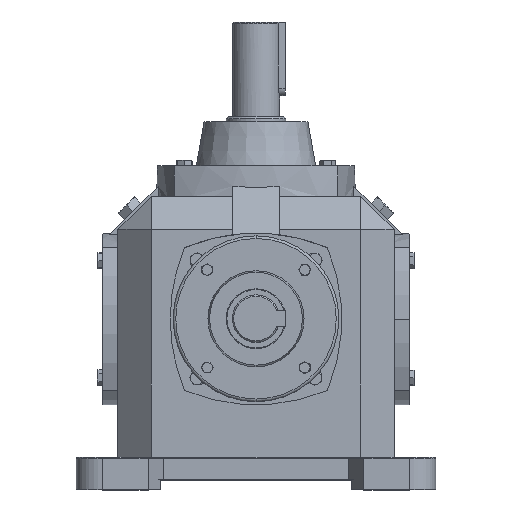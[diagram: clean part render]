
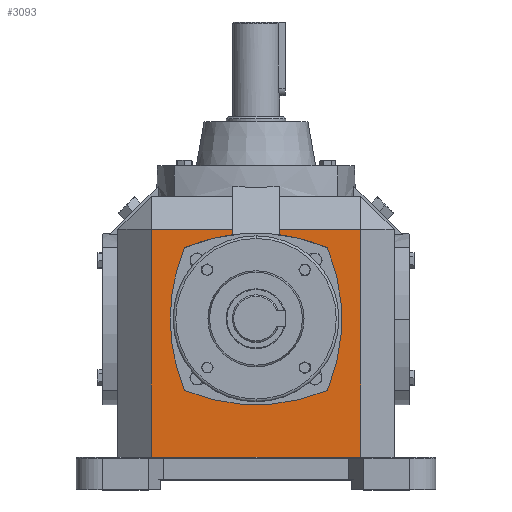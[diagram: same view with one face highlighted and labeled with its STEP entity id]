
A CAD part, top view. The second image highlights one B-rep face of the part: STEP entity #3093.
In plain terms, the highlighted planar face has unit normal (0, 0, 1).
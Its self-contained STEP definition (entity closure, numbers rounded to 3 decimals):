
#160 = AXIS2_PLACEMENT_3D ( 'NONE', #11302, #3667, #14354 ) ;
#373 = CARTESIAN_POINT ( 'NONE',  ( 37.663, -37.663, 72.9 ) ) ;
#483 = DIRECTION ( 'NONE',  ( 0., 0., 1. ) ) ;
#549 = CIRCLE ( 'NONE', #160, 96.398 ) ;
#611 = EDGE_CURVE ( 'NONE', #10576, #1269, #3101, .T. ) ;
#630 = EDGE_CURVE ( 'NONE', #1242, #10701, #14581, .T. ) ;
#919 = VERTEX_POINT ( 'NONE', #11474 ) ;
#972 = EDGE_CURVE ( 'NONE', #14676, #919, #10040, .T. ) ;
#1089 = EDGE_CURVE ( 'NONE', #8489, #10576, #14563, .T. ) ;
#1242 = VERTEX_POINT ( 'NONE', #9510 ) ;
#1248 = PLANE ( 'NONE',  #1775 ) ;
#1269 = VERTEX_POINT ( 'NONE', #1610 ) ;
#1610 = CARTESIAN_POINT ( 'NONE',  ( 12.232, 44.546, 72.9 ) ) ;
#1739 = CARTESIAN_POINT ( 'NONE',  ( -37.663, 37.663, 72.9 ) ) ;
#1775 = AXIS2_PLACEMENT_3D ( 'NONE', #10505, #13500, #9001 ) ;
#2418 = DIRECTION ( 'NONE',  ( -1., 0., 0. ) ) ;
#2572 = CARTESIAN_POINT ( 'NONE',  ( -72.9, -73., 72.9 ) ) ;
#2642 = EDGE_CURVE ( 'NONE', #10701, #17624, #6111, .T. ) ;
#2678 = CIRCLE ( 'NONE', #14907, 96.398 ) ;
#2831 = DIRECTION ( 'NONE',  ( 1., 0., 0. ) ) ;
#3093 = ADVANCED_FACE ( 'NONE', ( #15952 ), #1248, .F. ) ;
#3101 = CIRCLE ( 'NONE', #10559, 96.398 ) ;
#3316 = VERTEX_POINT ( 'NONE', #1739 ) ;
#3667 = DIRECTION ( 'NONE',  ( 0., 0., 1. ) ) ;
#3843 = DIRECTION ( 'NONE',  ( 0., 0., 1. ) ) ;
#3847 = CARTESIAN_POINT ( 'NONE',  ( -12.232, 47.326, 72.9 ) ) ;
#4011 = CARTESIAN_POINT ( 'NONE',  ( 12.232, 64.8, 72.9 ) ) ;
#4195 = CARTESIAN_POINT ( 'NONE',  ( -12.232, 44.546, 72.9 ) ) ;
#4236 = VERTEX_POINT ( 'NONE', #4195 ) ;
#4340 = ORIENTED_EDGE ( 'NONE', *, *, #5455, .F. ) ;
#4752 = CARTESIAN_POINT ( 'NONE',  ( 51.072, 0., 72.9 ) ) ;
#5035 = CARTESIAN_POINT ( 'NONE',  ( 0., -51.072, 72.9 ) ) ;
#5295 = ORIENTED_EDGE ( 'NONE', *, *, #19330, .T. ) ;
#5327 = ORIENTED_EDGE ( 'NONE', *, *, #12432, .F. ) ;
#5349 = DIRECTION ( 'NONE',  ( 1., 0., 0. ) ) ;
#5455 = EDGE_CURVE ( 'NONE', #8684, #8489, #16000, .T. ) ;
#5535 = VECTOR ( 'NONE', #10112, 1000. ) ;
#5537 = CARTESIAN_POINT ( 'NONE',  ( -51.072, 0., 72.9 ) ) ;
#5649 = EDGE_CURVE ( 'NONE', #3316, #18138, #5668, .T. ) ;
#5668 = CIRCLE ( 'NONE', #19284, 96.398 ) ;
#6111 = LINE ( 'NONE', #10128, #15970 ) ;
#6686 = EDGE_CURVE ( 'NONE', #14808, #1242, #10225, .T. ) ;
#6692 = EDGE_CURVE ( 'NONE', #4236, #14676, #18114, .T. ) ;
#6771 = CARTESIAN_POINT ( 'NONE',  ( 0., -51.072, 72.9 ) ) ;
#6945 = CARTESIAN_POINT ( 'NONE',  ( 12.232, 47.326, 72.9 ) ) ;
#7028 = LINE ( 'NONE', #7881, #15182 ) ;
#7301 = CARTESIAN_POINT ( 'NONE',  ( -55.426, -73., 72.9 ) ) ;
#7365 = CARTESIAN_POINT ( 'NONE',  ( -45.326, 0., 72.9 ) ) ;
#7881 = CARTESIAN_POINT ( 'NONE',  ( -55.426, 64.8, 72.9 ) ) ;
#7965 = DIRECTION ( 'NONE',  ( 1., 0., 0. ) ) ;
#8127 = DIRECTION ( 'NONE',  ( 0., 0., 1. ) ) ;
#8345 = ORIENTED_EDGE ( 'NONE', *, *, #1089, .F. ) ;
#8489 = VERTEX_POINT ( 'NONE', #373 ) ;
#8665 = DIRECTION ( 'NONE',  ( 1., 0., 0. ) ) ;
#8684 = VERTEX_POINT ( 'NONE', #14886 ) ;
#8769 = VECTOR ( 'NONE', #17789, 1000. ) ;
#8970 = AXIS2_PLACEMENT_3D ( 'NONE', #17847, #18042, #8665 ) ;
#9001 = DIRECTION ( 'NONE',  ( -1., 0., 0. ) ) ;
#9296 = EDGE_CURVE ( 'NONE', #17624, #1269, #9651, .T. ) ;
#9510 = CARTESIAN_POINT ( 'NONE',  ( 55.426, -73., 72.9 ) ) ;
#9651 = LINE ( 'NONE', #4011, #5535 ) ;
#9850 = ORIENTED_EDGE ( 'NONE', *, *, #972, .T. ) ;
#10040 = LINE ( 'NONE', #15881, #16989 ) ;
#10112 = DIRECTION ( 'NONE',  ( 0., -1., 0. ) ) ;
#10128 = CARTESIAN_POINT ( 'NONE',  ( -72.9, 47.326, 72.9 ) ) ;
#10225 = LINE ( 'NONE', #2572, #12880 ) ;
#10448 = ORIENTED_EDGE ( 'NONE', *, *, #6686, .T. ) ;
#10505 = CARTESIAN_POINT ( 'NONE',  ( -72.9, 64.8, 72.9 ) ) ;
#10559 = AXIS2_PLACEMENT_3D ( 'NONE', #6771, #3843, #5349 ) ;
#10576 = VERTEX_POINT ( 'NONE', #19471 ) ;
#10701 = VERTEX_POINT ( 'NONE', #12695 ) ;
#10974 = ORIENTED_EDGE ( 'NONE', *, *, #12962, .F. ) ;
#11302 = CARTESIAN_POINT ( 'NONE',  ( 51.072, 0., 72.9 ) ) ;
#11474 = CARTESIAN_POINT ( 'NONE',  ( -55.426, 47.326, 72.9 ) ) ;
#12005 = DIRECTION ( 'NONE',  ( 0., 0., 1. ) ) ;
#12432 = EDGE_CURVE ( 'NONE', #18138, #8684, #549, .T. ) ;
#12695 = CARTESIAN_POINT ( 'NONE',  ( 55.426, 47.326, 72.9 ) ) ;
#12880 = VECTOR ( 'NONE', #16300, 1000. ) ;
#12917 = DIRECTION ( 'NONE',  ( 1., 0., 0. ) ) ;
#12962 = EDGE_CURVE ( 'NONE', #4236, #3316, #2678, .T. ) ;
#13430 = ORIENTED_EDGE ( 'NONE', *, *, #630, .T. ) ;
#13500 = DIRECTION ( 'NONE',  ( 0., 0., -1. ) ) ;
#14354 = DIRECTION ( 'NONE',  ( 1., 0., 0. ) ) ;
#14563 = CIRCLE ( 'NONE', #15797, 96.398 ) ;
#14581 = LINE ( 'NONE', #17509, #19899 ) ;
#14592 = DIRECTION ( 'NONE',  ( -1., 0., 0. ) ) ;
#14676 = VERTEX_POINT ( 'NONE', #3847 ) ;
#14808 = VERTEX_POINT ( 'NONE', #7301 ) ;
#14886 = CARTESIAN_POINT ( 'NONE',  ( -37.663, -37.663, 72.9 ) ) ;
#14907 = AXIS2_PLACEMENT_3D ( 'NONE', #5035, #8127, #12917 ) ;
#15182 = VECTOR ( 'NONE', #18622, 1000. ) ;
#15400 = ORIENTED_EDGE ( 'NONE', *, *, #9296, .T. ) ;
#15797 = AXIS2_PLACEMENT_3D ( 'NONE', #5537, #12005, #2831 ) ;
#15837 = CARTESIAN_POINT ( 'NONE',  ( -12.232, 64.8, 72.9 ) ) ;
#15881 = CARTESIAN_POINT ( 'NONE',  ( -72.9, 47.326, 72.9 ) ) ;
#15952 = FACE_OUTER_BOUND ( 'NONE', #17497, .T. ) ;
#15970 = VECTOR ( 'NONE', #2418, 1000. ) ;
#16000 = CIRCLE ( 'NONE', #8970, 96.398 ) ;
#16300 = DIRECTION ( 'NONE',  ( 1., 0., 0. ) ) ;
#16783 = ORIENTED_EDGE ( 'NONE', *, *, #2642, .T. ) ;
#16989 = VECTOR ( 'NONE', #14592, 1000. ) ;
#17442 = ORIENTED_EDGE ( 'NONE', *, *, #611, .F. ) ;
#17446 = DIRECTION ( 'NONE',  ( 0., 1., 0. ) ) ;
#17497 = EDGE_LOOP ( 'NONE', ( #10974, #19927, #9850, #5295, #10448, #13430, #16783, #15400, #17442, #8345, #4340, #5327, #18073 ) ) ;
#17509 = CARTESIAN_POINT ( 'NONE',  ( 55.426, 64.8, 72.9 ) ) ;
#17624 = VERTEX_POINT ( 'NONE', #6945 ) ;
#17789 = DIRECTION ( 'NONE',  ( 0., 1., 0. ) ) ;
#17847 = CARTESIAN_POINT ( 'NONE',  ( 0., 51.072, 72.9 ) ) ;
#18042 = DIRECTION ( 'NONE',  ( 0., 0., 1. ) ) ;
#18073 = ORIENTED_EDGE ( 'NONE', *, *, #5649, .F. ) ;
#18114 = LINE ( 'NONE', #15837, #8769 ) ;
#18138 = VERTEX_POINT ( 'NONE', #7365 ) ;
#18622 = DIRECTION ( 'NONE',  ( 0., -1., 0. ) ) ;
#19284 = AXIS2_PLACEMENT_3D ( 'NONE', #4752, #483, #7965 ) ;
#19330 = EDGE_CURVE ( 'NONE', #919, #14808, #7028, .T. ) ;
#19471 = CARTESIAN_POINT ( 'NONE',  ( 37.663, 37.663, 72.9 ) ) ;
#19899 = VECTOR ( 'NONE', #17446, 1000. ) ;
#19927 = ORIENTED_EDGE ( 'NONE', *, *, #6692, .T. ) ;
